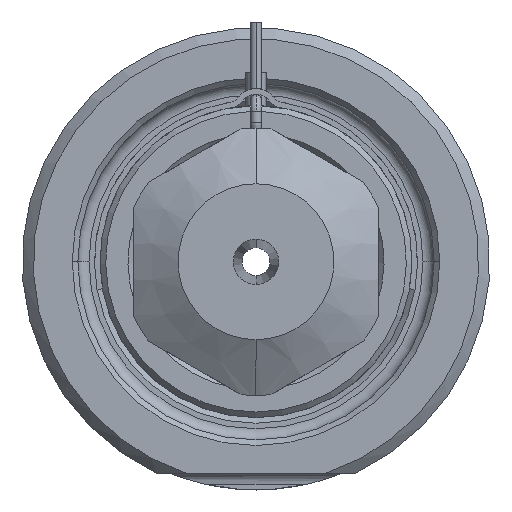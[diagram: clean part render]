
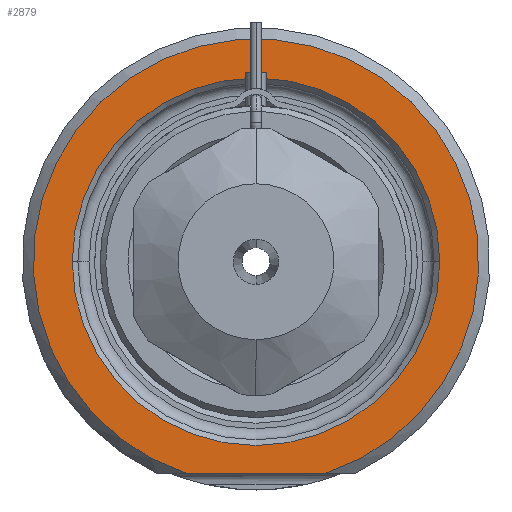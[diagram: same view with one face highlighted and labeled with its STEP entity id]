
A CAD part, front view. The second image highlights one B-rep face of the part: STEP entity #2879.
In plain terms, the highlighted planar face has unit normal (0, -1, 0).
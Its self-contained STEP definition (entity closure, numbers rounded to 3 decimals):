
#1=DIRECTION('',(1.,0.,0.));
#2=VECTOR('',#1,12.49);
#3=CARTESIAN_POINT('',(-6.245,0.,-19.));
#4=LINE('',#3,#2);
#5=CARTESIAN_POINT('',(0.,0.,0.));
#6=DIRECTION('',(0.,1.,0.));
#7=DIRECTION('',(-1.,0.,0.));
#8=AXIS2_PLACEMENT_3D('',#5,#6,#7);
#10=CARTESIAN_POINT('',(0.,0.,0.));
#11=DIRECTION('',(0.,1.,0.));
#12=DIRECTION('',(1.,0.,0.));
#13=AXIS2_PLACEMENT_3D('',#10,#11,#12);
#119=CARTESIAN_POINT('',(0.,0.,0.));
#120=DIRECTION('',(0.,-1.,0.));
#121=DIRECTION('',(0.312,0.,-0.95));
#122=AXIS2_PLACEMENT_3D('',#119,#120,#121);
#2399=CARTESIAN_POINT('',(-16.5,0.,0.));
#2400=CARTESIAN_POINT('',(16.5,0.,0.));
#2401=VERTEX_POINT('',#2399);
#2402=VERTEX_POINT('',#2400);
#2439=CARTESIAN_POINT('',(-6.245,0.,-19.));
#2440=CARTESIAN_POINT('',(6.245,0.,-19.));
#2441=VERTEX_POINT('',#2439);
#2442=VERTEX_POINT('',#2440);
#2862=CARTESIAN_POINT('',(0.,0.,0.));
#2863=DIRECTION('',(0.,-1.,0.));
#2864=DIRECTION('',(1.,0.,0.));
#2865=AXIS2_PLACEMENT_3D('',#2862,#2863,#2864);
#2866=PLANE('',#2865);
#2868=ORIENTED_EDGE('',*,*,#2867,.F.);
#2870=ORIENTED_EDGE('',*,*,#2869,.F.);
#2871=EDGE_LOOP('',(#2868,#2870));
#2872=FACE_OUTER_BOUND('',#2871,.F.);
#2874=ORIENTED_EDGE('',*,*,#2873,.F.);
#2876=ORIENTED_EDGE('',*,*,#2875,.F.);
#2877=EDGE_LOOP('',(#2874,#2876));
#2878=FACE_BOUND('',#2877,.F.);
#2879=ADVANCED_FACE('',(#2872,#2878),#2866,.T.);
#9=CIRCLE('',#8,16.5);
#14=CIRCLE('',#13,16.5);
#123=CIRCLE('',#122,20.);
#2867=EDGE_CURVE('',#2441,#2442,#4,.T.);
#2869=EDGE_CURVE('',#2442,#2441,#123,.T.);
#2873=EDGE_CURVE('',#2401,#2402,#9,.T.);
#2875=EDGE_CURVE('',#2402,#2401,#14,.T.);
